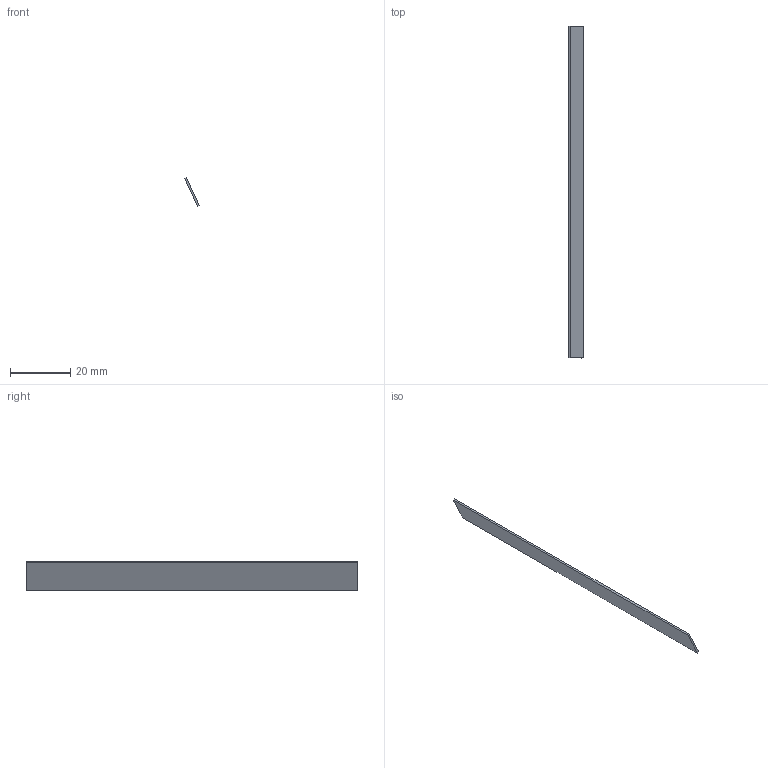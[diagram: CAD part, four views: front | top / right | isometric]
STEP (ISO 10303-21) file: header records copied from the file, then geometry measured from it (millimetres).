
FILE_DESCRIPTION(('Open CASCADE Model'),'2;1');
FILE_NAME('Open CASCADE Shape Model','2026-10-21T18:06:14',('Author'),( 'Open CASCADE'),'Open CASCADE STEP processor 8.0','build123d', 'Unknown');
FILE_SCHEMA(('AUTOMOTIVE_DESIGN { 1 0 10303 214 1 1 1 1 }'));
Length unit declared in the file: millimetre
Products named in the file (1): SOLID
Bounding box: 4.9 x 109.85 x 9.59 mm (x, y, z)
Volume: 678.9 mm3; surface area: 2407.1 mm2
Topology: 1 solids, 1 shells, 6 faces, 12 edges, 8 vertices
Faces by surface type: plane 6
Entity records: 310 total; most frequent: CARTESIAN_POINT 63, DIRECTION 38, ORIENTED_EDGE 24, LINE 24, VECTOR 24, PCURVE 24, DEFINITIONAL_REPRESENTATION 24, EDGE_CURVE 12
